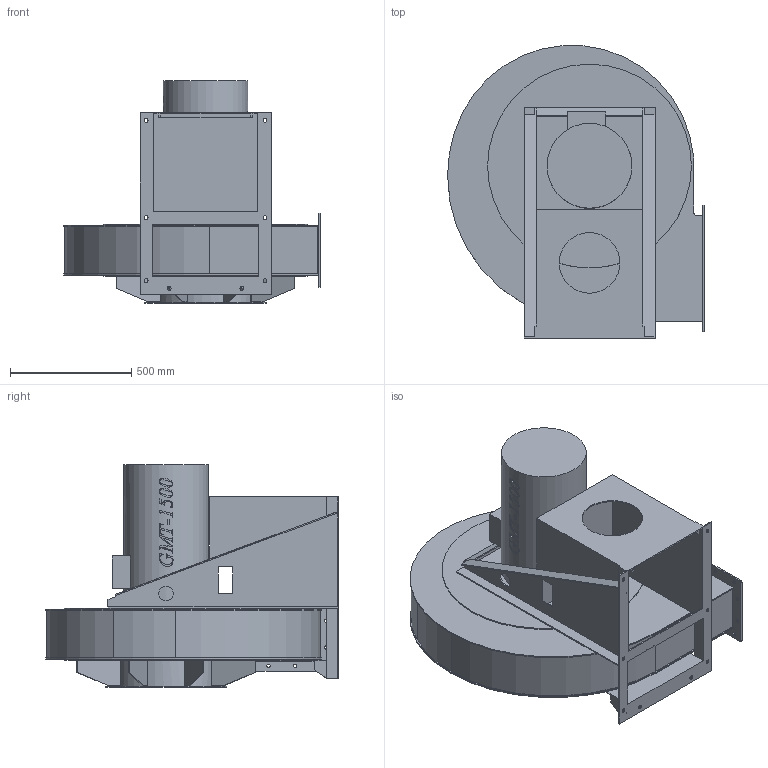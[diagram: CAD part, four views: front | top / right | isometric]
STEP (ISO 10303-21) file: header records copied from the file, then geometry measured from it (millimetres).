
FILE_DESCRIPTION(/* description */ (''),/* implementation_level */ '2;1');
FILE_NAME(/* name */ 'E:\Mariusz\Modele uproszczone\GMT\GMT_1500 LG270 43551930\GMT_1500 LG270 43551930\GMT_1500 LG270 43551930.stp',/* time_stamp */ '2018-08-08T10:35:58+02:00',/* author */ ('M.Janczarek'),/* organization */ (''),/* preprocessor_version */ 'ST-DEVELOPER v16.5',/* originating_system */ 'Autodesk Inventor 2017',/* authorisation */ '');
FILE_SCHEMA (('AUTOMOTIVE_DESIGN { 1 0 10303 214 3 1 1 }'));
Length unit declared in the file: millimetre
Products named in the file (1): GMT_1500 LG270 43551930
Bounding box: 1058.5 x 1206.71 x 917.5 mm (x, y, z)
Volume: 270368758.6 mm3; surface area: 7252154.1 mm2
Topology: 1 solids, 1 shells, 686 faces, 1962 edges, 1298 vertices
Faces by surface type: bspline 349, plane 245, cylinder 92
Full cylindrical faces by diameter (mm): 10 x8, 14 x14, 16 x8, 60 x2, 250 x1, 350 x1, 400 x1, 406 x1, 500 x1, 840 x2
Entity records: 28181 total; most frequent: CARTESIAN_POINT 12449, ORIENTED_EDGE 3742, DIRECTION 2122, EDGE_CURVE 1863, VERTEX_POINT 1257, LINE 1028, VECTOR 1028, EDGE_LOOP 824
